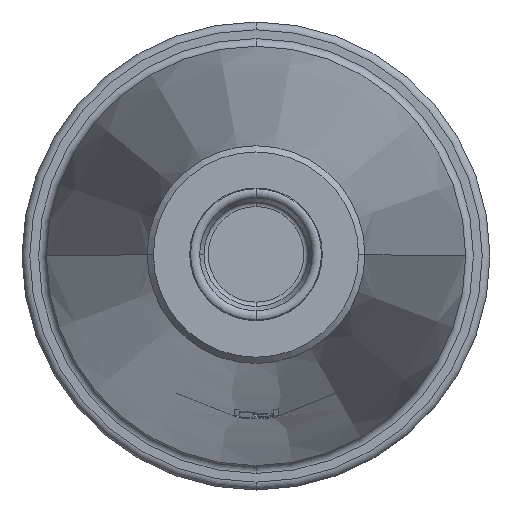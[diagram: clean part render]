
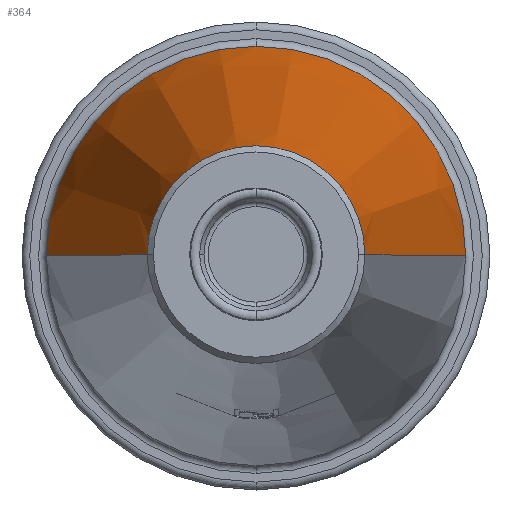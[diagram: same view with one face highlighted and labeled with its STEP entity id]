
A CAD part, top view. The second image highlights one B-rep face of the part: STEP entity #364.
In plain terms, the highlighted conical face has half-angle 7.768 degrees and reference radius 102.093 mm.
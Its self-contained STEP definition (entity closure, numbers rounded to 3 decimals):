
#364=ADVANCED_FACE('',(#729),#730,.T.);
#729=FACE_OUTER_BOUND('',#1126,.T.);
#730=CONICAL_SURFACE('',#1127,102.093,0.136);
#1126=EDGE_LOOP('',(#1987,#1988,#1989,#1990,#1991));
#1127=AXIS2_PLACEMENT_3D('',#1992,#1993,#1994);
#1987=ORIENTED_EDGE('',*,*,#2535,.T.);
#1988=ORIENTED_EDGE('',*,*,#2616,.F.);
#1989=ORIENTED_EDGE('',*,*,#2476,.F.);
#1990=ORIENTED_EDGE('',*,*,#2537,.T.);
#1991=ORIENTED_EDGE('',*,*,#2617,.T.);
#1992=CARTESIAN_POINT('',(389.4,537.495,-193.338));
#1993=DIRECTION('',(0.,0.,-1.0));
#1994=DIRECTION('',(1.0,0.,0.));
#2476=EDGE_CURVE('',#2964,#2966,#2967,.T.);
#2535=EDGE_CURVE('',#3071,#3072,#3073,.T.);
#2537=EDGE_CURVE('',#2964,#3074,#3076,.T.);
#2616=EDGE_CURVE('',#2966,#3072,#3200,.T.);
#2617=EDGE_CURVE('',#3074,#3071,#3201,.T.);
#2964=VERTEX_POINT('',#3713);
#2966=VERTEX_POINT('',#3715);
#2967=CIRCLE('',#3716,134.41);
#3071=VERTEX_POINT('',#4174);
#3072=VERTEX_POINT('',#4175);
#3073=LINE('',#4176,#4177);
#3074=VERTEX_POINT('',#4178);
#3076=LINE('',#4180,#4181);
#3200=CIRCLE('',#4665,134.41);
#3201=CIRCLE('',#4666,69.775);
#3713=CARTESIAN_POINT('',(254.99,537.495,-430.231));
#3715=CARTESIAN_POINT('',(389.4,671.905,-430.231));
#3716=AXIS2_PLACEMENT_3D('',#5051,#5052,#5053);
#4174=CARTESIAN_POINT('',(459.176,537.495,43.555));
#4175=CARTESIAN_POINT('',(523.81,537.495,-430.231));
#4176=CARTESIAN_POINT('',(491.493,537.495,-193.338));
#4177=VECTOR('',#5123,1.0);
#4178=CARTESIAN_POINT('',(319.625,537.495,43.555));
#4180=CARTESIAN_POINT('',(287.307,537.495,-193.338));
#4181=VECTOR('',#5127,1.0);
#4665=AXIS2_PLACEMENT_3D('',#5208,#5209,#5210);
#4666=AXIS2_PLACEMENT_3D('',#5211,#5212,#5213);
#5051=CARTESIAN_POINT('',(389.4,537.495,-430.231));
#5052=DIRECTION('',(0.,0.,-1.0));
#5053=DIRECTION('',(1.0,0.,0.));
#5123=DIRECTION('',(0.135,0.,-0.991));
#5127=DIRECTION('',(0.135,0.,0.991));
#5208=CARTESIAN_POINT('',(389.4,537.495,-430.231));
#5209=DIRECTION('',(0.,0.,-1.0));
#5210=DIRECTION('',(1.0,0.,0.));
#5211=CARTESIAN_POINT('',(389.4,537.495,43.555));
#5212=DIRECTION('',(0.,0.,-1.0));
#5213=DIRECTION('',(1.0,0.,0.));
